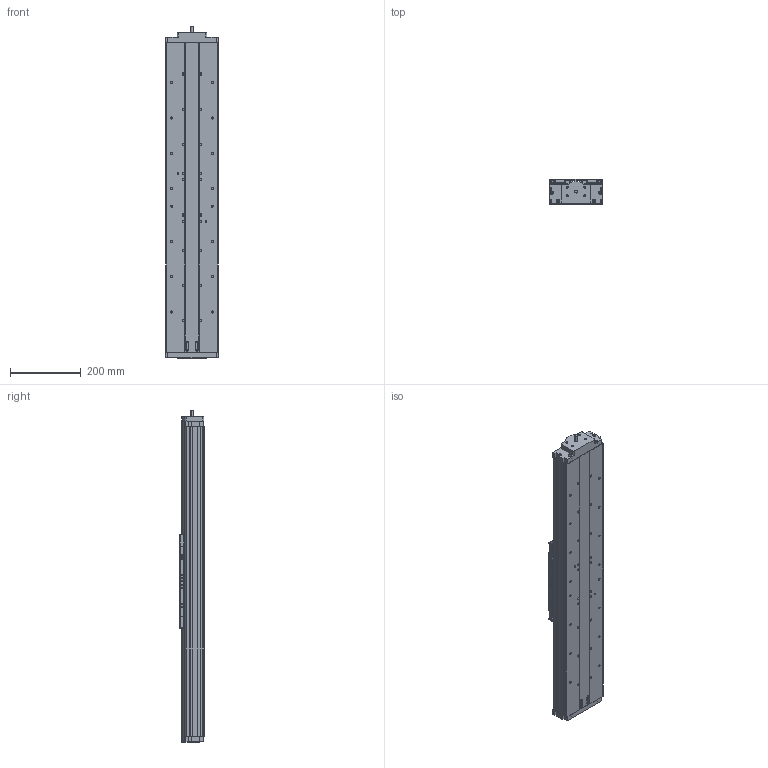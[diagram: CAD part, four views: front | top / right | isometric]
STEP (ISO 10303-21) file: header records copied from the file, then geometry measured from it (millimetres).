
FILE_DESCRIPTION((''),'2;1');
FILE_NAME('406XR-06_ASM','2002-07-12T',('FKrakosh'),(''),'PRO/ENGINEER BY PARAMETRIC TECHNOLOGY CORPORATION, 2000420','PRO/ENGINEER BY PARAMETRIC TECHNOLOGY CORPORATION, 2000420','');
FILE_SCHEMA(('CONFIG_CONTROL_DESIGN'));
Length unit declared in the file: millimetre
Products named in the file (8): 406XR-BASE-06; 406XR-REAR-END-BLK; 406XR-CARRIAGE; 10853610-01; 406XR-FEB-8MM; 10426110; 30321911; 406XR-06_ASM
Assembly tree (8 placements, depth 2):
  406XR-06_ASM
    406XR-BASE-06
    406XR-REAR-END-BLK
    406XR-CARRIAGE
    10853610-01  x2
    406XR-FEB-8MM
    10426110
    30321911
Bounding box: 150 x 69.9 x 941.4 mm (x, y, z)
Volume: 7978860.8 mm3; surface area: 632001.9 mm2
Topology: 8 solids, 62 shells, 912 faces, 2268 edges, 1516 vertices
Faces by surface type: cylinder 470, plane 412, bspline 16, sphere 12, cone 2
Entity records: 25904 total; most frequent: CARTESIAN_POINT 5592, DIRECTION 4470, ORIENTED_EDGE 3814, EDGE_CURVE 2011, AXIS2_PLACEMENT_3D 1721, VERTEX_POINT 1359, VECTOR 1028, LINE 1028
